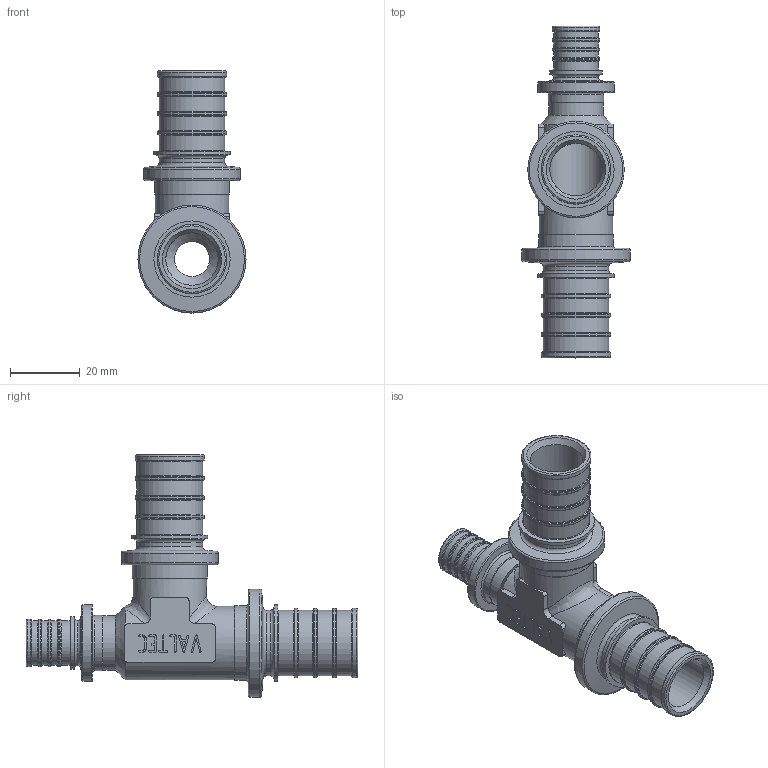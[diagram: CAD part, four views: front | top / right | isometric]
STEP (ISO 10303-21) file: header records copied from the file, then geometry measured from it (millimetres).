
FILE_DESCRIPTION(('STEP AP203'), '1');
FILE_NAME('覆.752241.008 - VTm.431.G.252516 秮鍣. 縺鳱', '', ('UNSPECIFIED'), ('UNSPECIFIED'), 'C3D Converter', 'C3D Toolkit', '');
FILE_SCHEMA(('CONFIG_CONTROL_DESIGN'));
Length unit declared in the file: millimetre
Products named in the file (1): ВР.752241.008
Bounding box: 30.9 x 94.9 x 69.25 mm (x, y, z)
Volume: 21468.1 mm3; surface area: 17349.9 mm2
Topology: 1 solids, 1 shells, 417 faces, 1050 edges, 671 vertices
Faces by surface type: extrusion 142, plane 138, torus 62, cylinder 59, cone 11, bspline 5
Full cylindrical faces by diameter (mm): 10 x1, 12.8 x4, 13.5 x4, 15 x3, 15.5 x1, 15.8 x1, 18.8 x10, 19.8 x8, 21 x2, 21.4 x2, 21.8 x2, 21.9 x1, 27.6 x1, 30.9 x1
Entity records: 16569 total; most frequent: CARTESIAN_POINT 4163, ORIENTED_EDGE 1876, DIRECTION 1465, EDGE_CURVE 938, VERTEX_POINT 673, VECTOR 585, EDGE_LOOP 569, B_SPLINE_CURVE_WITH_KNOTS 465
